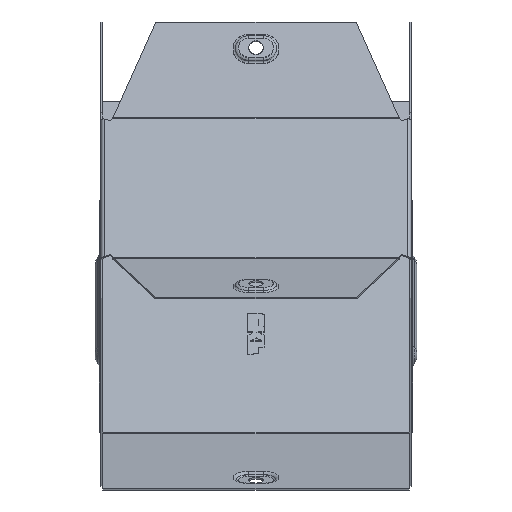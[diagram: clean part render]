
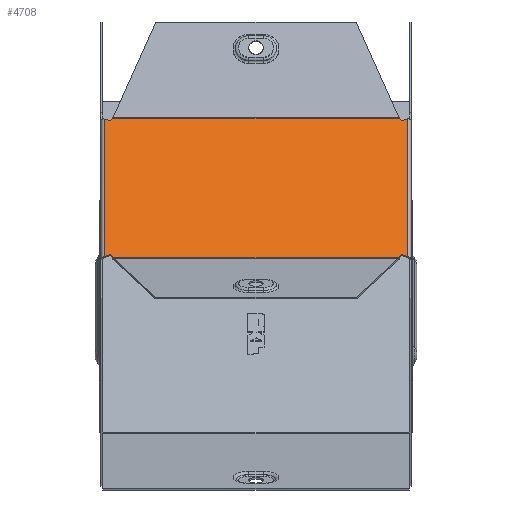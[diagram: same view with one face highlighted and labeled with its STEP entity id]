
A CAD part, front view. The second image highlights one B-rep face of the part: STEP entity #4708.
In plain terms, the highlighted planar face has unit normal (0, -0.707, 0.707).
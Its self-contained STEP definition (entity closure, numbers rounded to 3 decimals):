
#19 = VERTEX_POINT ( 'NONE', #9886 ) ;
#132 = VECTOR ( 'NONE', #11021, 1000. ) ;
#367 = VECTOR ( 'NONE', #9364, 1000. ) ;
#605 = EDGE_CURVE ( 'NONE', #1733, #19, #5877, .T. ) ;
#898 = CARTESIAN_POINT ( 'NONE',  ( 73.2, 69.245, -2.873 ) ) ;
#957 = CARTESIAN_POINT ( 'NONE',  ( -73.2, 69.245, -2.873 ) ) ;
#961 = ORIENTED_EDGE ( 'NONE', *, *, #605, .T. ) ;
#982 = DIRECTION ( 'NONE',  ( 0., -0.707, -0.707 ) ) ;
#1000 = VECTOR ( 'NONE', #4559, 1000. ) ;
#1190 = DIRECTION ( 'NONE',  ( 0., 0.707, 0.707 ) ) ;
#1239 = DIRECTION ( 'NONE',  ( 0., 0.707, -0.707 ) ) ;
#1347 = VERTEX_POINT ( 'NONE', #2863 ) ;
#1589 = DIRECTION ( 'NONE',  ( 0.383, -0.653, -0.653 ) ) ;
#1683 = VECTOR ( 'NONE', #9890, 1000. ) ;
#1733 = VERTEX_POINT ( 'NONE', #6333 ) ;
#1925 = EDGE_CURVE ( 'NONE', #7507, #3124, #10455, .T. ) ;
#2420 = EDGE_LOOP ( 'NONE', ( #9323, #2847, #7032, #7256, #8111, #961, #8477, #10234, #3084, #8090, #7023, #5863 ) ) ;
#2534 = LINE ( 'NONE', #8458, #132 ) ;
#2703 = CARTESIAN_POINT ( 'NONE',  ( -75.299, 2.258, -69.859 ) ) ;
#2804 = LINE ( 'NONE', #6604, #2944 ) ;
#2847 = ORIENTED_EDGE ( 'NONE', *, *, #6348, .T. ) ;
#2863 = CARTESIAN_POINT ( 'NONE',  ( -69.345, 2.258, -69.859 ) ) ;
#2896 = PLANE ( 'NONE',  #10618 ) ;
#2922 = VERTEX_POINT ( 'NONE', #9333 ) ;
#2944 = VECTOR ( 'NONE', #4752, 1000. ) ;
#3084 = ORIENTED_EDGE ( 'NONE', *, *, #3807, .T. ) ;
#3124 = VERTEX_POINT ( 'NONE', #11516 ) ;
#3327 = DIRECTION ( 'NONE',  ( -0.924, -0.271, -0.271 ) ) ;
#3527 = VECTOR ( 'NONE', #1589, 1000. ) ;
#3678 = CARTESIAN_POINT ( 'NONE',  ( -73.2, 2.873, -69.245 ) ) ;
#3807 = EDGE_CURVE ( 'NONE', #8710, #8721, #8897, .T. ) ;
#3820 = LINE ( 'NONE', #9040, #1000 ) ;
#3851 = CARTESIAN_POINT ( 'NONE',  ( 70.217, 3.747, -68.371 ) ) ;
#3944 = VECTOR ( 'NONE', #10729, 1000. ) ;
#4231 = LINE ( 'NONE', #5578, #3944 ) ;
#4559 = DIRECTION ( 'NONE',  ( -0.924, 0.271, 0.271 ) ) ;
#4654 = LINE ( 'NONE', #2703, #1683 ) ;
#4704 = EDGE_CURVE ( 'NONE', #2922, #1347, #4231, .T. ) ;
#4708 = ADVANCED_FACE ( 'NONE', ( #9579 ), #2896, .F. ) ;
#4752 = DIRECTION ( 'NONE',  ( 0.383, 0.653, 0.653 ) ) ;
#5019 = CARTESIAN_POINT ( 'NONE',  ( 75.299, 69.859, -2.258 ) ) ;
#5054 = VECTOR ( 'NONE', #5345, 1000. ) ;
#5172 = CARTESIAN_POINT ( 'NONE',  ( -70.217, 3.747, -68.371 ) ) ;
#5336 = EDGE_CURVE ( 'NONE', #3124, #1733, #2534, .T. ) ;
#5345 = DIRECTION ( 'NONE',  ( 0., -0.707, -0.707 ) ) ;
#5578 = CARTESIAN_POINT ( 'NONE',  ( 73.2, 2.258, -69.859 ) ) ;
#5736 = LINE ( 'NONE', #10295, #367 ) ;
#5863 = ORIENTED_EDGE ( 'NONE', *, *, #4704, .F. ) ;
#5877 = LINE ( 'NONE', #11610, #6173 ) ;
#5904 = LINE ( 'NONE', #8050, #5054 ) ;
#6173 = VECTOR ( 'NONE', #7308, 1000. ) ;
#6333 = CARTESIAN_POINT ( 'NONE',  ( 69.345, 69.859, -2.258 ) ) ;
#6348 = EDGE_CURVE ( 'NONE', #9211, #7131, #5736, .T. ) ;
#6604 = CARTESIAN_POINT ( 'NONE',  ( 48.5, -33.327, -105.445 ) ) ;
#7023 = ORIENTED_EDGE ( 'NONE', *, *, #10566, .T. ) ;
#7032 = ORIENTED_EDGE ( 'NONE', *, *, #8608, .F. ) ;
#7131 = VERTEX_POINT ( 'NONE', #8806 ) ;
#7198 = VECTOR ( 'NONE', #982, 1000. ) ;
#7256 = ORIENTED_EDGE ( 'NONE', *, *, #1925, .T. ) ;
#7308 = DIRECTION ( 'NONE',  ( -1., 0., 0. ) ) ;
#7462 = EDGE_CURVE ( 'NONE', #7498, #8710, #3820, .T. ) ;
#7498 = VERTEX_POINT ( 'NONE', #9105 ) ;
#7507 = VERTEX_POINT ( 'NONE', #898 ) ;
#8050 = CARTESIAN_POINT ( 'NONE',  ( 73.2, 70., -2.118 ) ) ;
#8090 = ORIENTED_EDGE ( 'NONE', *, *, #10169, .T. ) ;
#8111 = ORIENTED_EDGE ( 'NONE', *, *, #5336, .T. ) ;
#8117 = EDGE_CURVE ( 'NONE', #19, #7498, #9857, .T. ) ;
#8403 = VERTEX_POINT ( 'NONE', #8920 ) ;
#8458 = CARTESIAN_POINT ( 'NONE',  ( 48.5, 105.445, 33.327 ) ) ;
#8477 = ORIENTED_EDGE ( 'NONE', *, *, #8117, .T. ) ;
#8608 = EDGE_CURVE ( 'NONE', #7507, #7131, #5904, .T. ) ;
#8710 = VERTEX_POINT ( 'NONE', #957 ) ;
#8721 = VERTEX_POINT ( 'NONE', #3678 ) ;
#8806 = CARTESIAN_POINT ( 'NONE',  ( 73.2, 2.873, -69.245 ) ) ;
#8897 = LINE ( 'NONE', #9048, #7198 ) ;
#8920 = CARTESIAN_POINT ( 'NONE',  ( -70.217, 3.747, -68.371 ) ) ;
#9040 = CARTESIAN_POINT ( 'NONE',  ( -75.299, 69.859, -2.258 ) ) ;
#9048 = CARTESIAN_POINT ( 'NONE',  ( -73.2, 70., -2.118 ) ) ;
#9105 = CARTESIAN_POINT ( 'NONE',  ( -70.217, 68.371, -3.747 ) ) ;
#9136 = DIRECTION ( 'NONE',  ( -0.383, -0.653, -0.653 ) ) ;
#9211 = VERTEX_POINT ( 'NONE', #3851 ) ;
#9323 = ORIENTED_EDGE ( 'NONE', *, *, #11299, .T. ) ;
#9333 = CARTESIAN_POINT ( 'NONE',  ( 69.345, 2.258, -69.859 ) ) ;
#9364 = DIRECTION ( 'NONE',  ( 0.924, -0.271, -0.271 ) ) ;
#9579 = FACE_OUTER_BOUND ( 'NONE', #2420, .T. ) ;
#9710 = VECTOR ( 'NONE', #9136, 1000. ) ;
#9857 = LINE ( 'NONE', #10871, #9710 ) ;
#9886 = CARTESIAN_POINT ( 'NONE',  ( -69.345, 69.859, -2.258 ) ) ;
#9890 = DIRECTION ( 'NONE',  ( 0.924, 0.271, 0.271 ) ) ;
#10156 = CARTESIAN_POINT ( 'NONE',  ( 73.2, 70., -2.118 ) ) ;
#10169 = EDGE_CURVE ( 'NONE', #8721, #8403, #4654, .T. ) ;
#10234 = ORIENTED_EDGE ( 'NONE', *, *, #7462, .T. ) ;
#10295 = CARTESIAN_POINT ( 'NONE',  ( 75.299, 2.258, -69.859 ) ) ;
#10455 = LINE ( 'NONE', #5019, #11287 ) ;
#10566 = EDGE_CURVE ( 'NONE', #8403, #1347, #10689, .T. ) ;
#10618 = AXIS2_PLACEMENT_3D ( 'NONE', #10156, #1239, #1190 ) ;
#10689 = LINE ( 'NONE', #5172, #3527 ) ;
#10729 = DIRECTION ( 'NONE',  ( -1., 0., 0. ) ) ;
#10871 = CARTESIAN_POINT ( 'NONE',  ( -70.217, 68.371, -3.747 ) ) ;
#11021 = DIRECTION ( 'NONE',  ( -0.383, 0.653, 0.653 ) ) ;
#11287 = VECTOR ( 'NONE', #3327, 1000. ) ;
#11299 = EDGE_CURVE ( 'NONE', #2922, #9211, #2804, .T. ) ;
#11516 = CARTESIAN_POINT ( 'NONE',  ( 70.217, 68.371, -3.747 ) ) ;
#11610 = CARTESIAN_POINT ( 'NONE',  ( 73.2, 69.859, -2.258 ) ) ;
